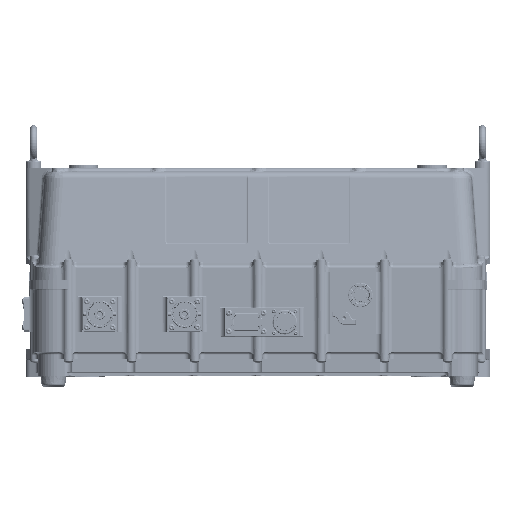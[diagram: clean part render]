
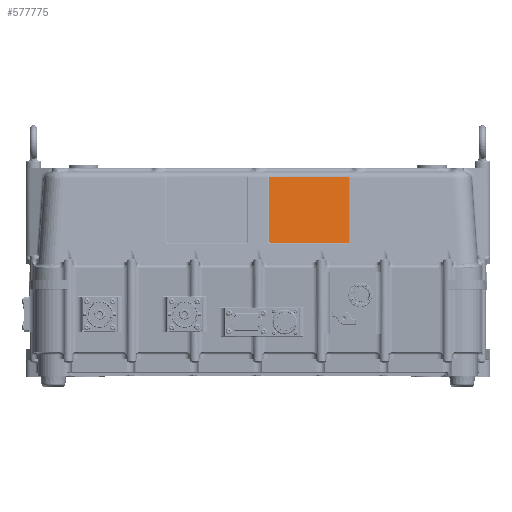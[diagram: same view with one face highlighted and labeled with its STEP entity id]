
A CAD part, top view. The second image highlights one B-rep face of the part: STEP entity #577775.
In plain terms, the highlighted planar face has unit normal (0, 0.131, 0.991).
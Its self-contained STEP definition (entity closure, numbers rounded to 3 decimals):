
#7940 = VECTOR ( 'NONE', #176930, 1000. ) ;
#11218 = DIRECTION ( 'NONE',  ( 0., -0.991, 0.131 ) ) ;
#11361 = VERTEX_POINT ( 'NONE', #255091 ) ;
#13869 = ORIENTED_EDGE ( 'NONE', *, *, #318586, .T. ) ;
#16030 = ORIENTED_EDGE ( 'NONE', *, *, #612173, .T. ) ;
#19925 = CARTESIAN_POINT ( 'NONE',  ( 118.197, 74.762, 373.502 ) ) ;
#28544 = DIRECTION ( 'NONE',  ( 0., -0.991, 0.131 ) ) ;
#66107 = DIRECTION ( 'NONE',  ( 0., 0.131, 0.991 ) ) ;
#83649 = CARTESIAN_POINT ( 'NONE',  ( 118.197, 157.884, 362.558 ) ) ;
#112922 = FACE_OUTER_BOUND ( 'NONE', #533566, .T. ) ;
#126961 = DIRECTION ( 'NONE',  ( 0., -0.991, 0.131 ) ) ;
#131757 = CARTESIAN_POINT ( 'NONE',  ( 118.385, 157.884, 362.558 ) ) ;
#141978 = CARTESIAN_POINT ( 'NONE',  ( 14.803, 74.762, 373.502 ) ) ;
#145931 = VERTEX_POINT ( 'NONE', #183988 ) ;
#156442 = DIRECTION ( 'NONE',  ( 1., 0., 0. ) ) ;
#165903 = CIRCLE ( 'NONE', #215645, 2.197 ) ;
#176930 = DIRECTION ( 'NONE',  ( 1., 0., 0. ) ) ;
#179737 = DIRECTION ( 'NONE',  ( 0., 0.131, 0.991 ) ) ;
#181595 = VECTOR ( 'NONE', #11218, 1000. ) ;
#183085 = LINE ( 'NONE', #83649, #227648 ) ;
#183988 = CARTESIAN_POINT ( 'NONE',  ( 14.803, 74.762, 373.502 ) ) ;
#186697 = VERTEX_POINT ( 'NONE', #540353 ) ;
#193529 = AXIS2_PLACEMENT_3D ( 'NONE', #498069, #66107, #156442 ) ;
#203293 = VECTOR ( 'NONE', #523475, 1000. ) ;
#208467 = CARTESIAN_POINT ( 'NONE',  ( 118.197, 156.24, 362.775 ) ) ;
#211384 = CARTESIAN_POINT ( 'NONE',  ( 118.385, 157.884, 362.558 ) ) ;
#215645 = AXIS2_PLACEMENT_3D ( 'NONE', #605369, #179737, #126961 ) ;
#223564 = CARTESIAN_POINT ( 'NONE',  ( 116., 72.584, 373.788 ) ) ;
#224993 = ORIENTED_EDGE ( 'NONE', *, *, #263874, .T. ) ;
#227648 = VECTOR ( 'NONE', #372820, 1000. ) ;
#228116 = ORIENTED_EDGE ( 'NONE', *, *, #448866, .T. ) ;
#228117 = CARTESIAN_POINT ( 'NONE',  ( 118.253, 157.344, 362.629 ) ) ;
#237723 = LINE ( 'NONE', #389806, #203293 ) ;
#241654 = VERTEX_POINT ( 'NONE', #390265 ) ;
#255091 = CARTESIAN_POINT ( 'NONE',  ( 14.803, 156.24, 362.775 ) ) ;
#259160 = CARTESIAN_POINT ( 'NONE',  ( 14.615, 157.884, 362.558 ) ) ;
#263874 = EDGE_CURVE ( 'NONE', #363001, #11361, #592790, .T. ) ;
#269702 = ORIENTED_EDGE ( 'NONE', *, *, #493279, .T. ) ;
#277944 = CARTESIAN_POINT ( 'NONE',  ( 118.197, 156.795, 362.702 ) ) ;
#279247 = EDGE_CURVE ( 'NONE', #442066, #595348, #183085, .T. ) ;
#296325 = VERTEX_POINT ( 'NONE', #211384 ) ;
#307878 = CARTESIAN_POINT ( 'NONE',  ( 14.803, 156.795, 362.702 ) ) ;
#311299 = CIRCLE ( 'NONE', #598999, 2.197 ) ;
#318586 = EDGE_CURVE ( 'NONE', #186697, #442066, #165903, .T. ) ;
#331842 = ORIENTED_EDGE ( 'NONE', *, *, #481918, .T. ) ;
#333049 = EDGE_CURVE ( 'NONE', #241654, #186697, #472055, .T. ) ;
#337731 = LINE ( 'NONE', #141978, #181595 ) ;
#355036 = CARTESIAN_POINT ( 'NONE',  ( 17., 74.762, 373.502 ) ) ;
#363001 = VERTEX_POINT ( 'NONE', #259160 ) ;
#363207 = B_SPLINE_CURVE_WITH_KNOTS ( 'NONE', 3,
 ( #569713, #277944, #228117, #131757 ),
 .UNSPECIFIED., .F., .F.,
 ( 4, 4 ),
 ( 0., 0.002 ),
 .UNSPECIFIED. ) ;
#372820 = DIRECTION ( 'NONE',  ( 0., 0.991, -0.131 ) ) ;
#389806 = CARTESIAN_POINT ( 'NONE',  ( 120., 157.884, 362.558 ) ) ;
#390265 = CARTESIAN_POINT ( 'NONE',  ( 17., 72.584, 373.788 ) ) ;
#442066 = VERTEX_POINT ( 'NONE', #19925 ) ;
#445459 = PLANE ( 'NONE',  #193529 ) ;
#448866 = EDGE_CURVE ( 'NONE', #595348, #296325, #363207, .T. ) ;
#462980 = CARTESIAN_POINT ( 'NONE',  ( 14.615, 157.884, 362.558 ) ) ;
#472055 = LINE ( 'NONE', #223564, #7940 ) ;
#481918 = EDGE_CURVE ( 'NONE', #145931, #241654, #311299, .T. ) ;
#493279 = EDGE_CURVE ( 'NONE', #296325, #363001, #237723, .T. ) ;
#494764 = DIRECTION ( 'NONE',  ( 0., 0.131, 0.991 ) ) ;
#498069 = CARTESIAN_POINT ( 'NONE',  ( 120., 165., 361.621 ) ) ;
#523023 = ORIENTED_EDGE ( 'NONE', *, *, #333049, .T. ) ;
#523475 = DIRECTION ( 'NONE',  ( -1., 0., 0. ) ) ;
#529337 = ORIENTED_EDGE ( 'NONE', *, *, #279247, .T. ) ;
#533566 = EDGE_LOOP ( 'NONE', ( #269702, #224993, #16030, #331842, #523023, #13869, #529337, #228116 ) ) ;
#540353 = CARTESIAN_POINT ( 'NONE',  ( 116., 72.584, 373.788 ) ) ;
#550021 = CARTESIAN_POINT ( 'NONE',  ( 14.803, 156.24, 362.775 ) ) ;
#569713 = CARTESIAN_POINT ( 'NONE',  ( 118.197, 156.24, 362.775 ) ) ;
#577775 = ADVANCED_FACE ( 'NONE', ( #112922 ), #445459, .T. ) ;
#592790 = B_SPLINE_CURVE_WITH_KNOTS ( 'NONE', 3,
 ( #462980, #599628, #307878, #550021 ),
 .UNSPECIFIED., .F., .F.,
 ( 4, 4 ),
 ( 0., 0.002 ),
 .UNSPECIFIED. ) ;
#595348 = VERTEX_POINT ( 'NONE', #208467 ) ;
#598999 = AXIS2_PLACEMENT_3D ( 'NONE', #355036, #494764, #28544 ) ;
#599628 = CARTESIAN_POINT ( 'NONE',  ( 14.747, 157.344, 362.629 ) ) ;
#605369 = CARTESIAN_POINT ( 'NONE',  ( 116., 74.762, 373.502 ) ) ;
#612173 = EDGE_CURVE ( 'NONE', #11361, #145931, #337731, .T. ) ;
